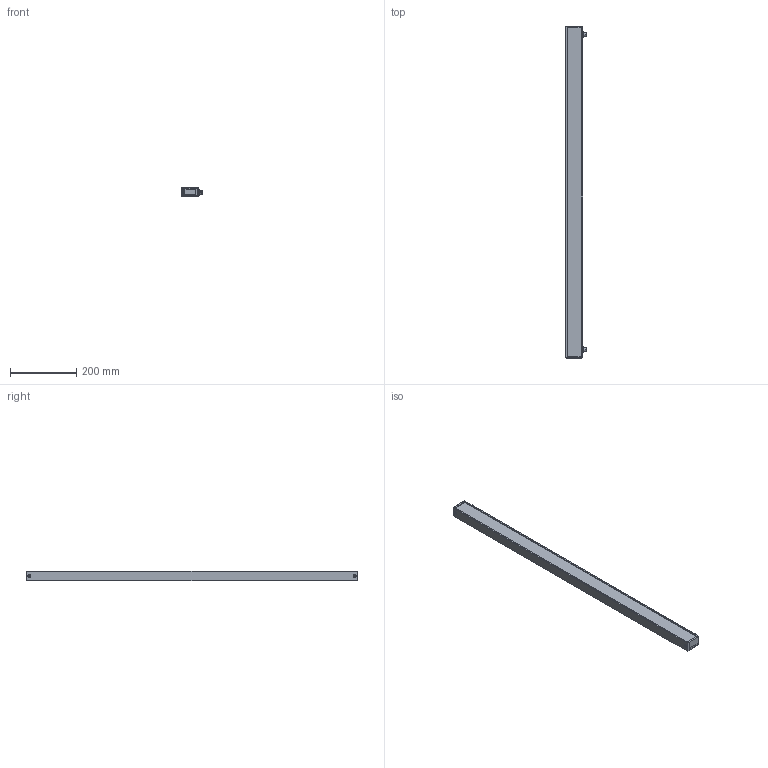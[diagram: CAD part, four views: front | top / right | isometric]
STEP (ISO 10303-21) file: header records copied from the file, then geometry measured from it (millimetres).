
FILE_DESCRIPTION(/* description */ (''),/* implementation_level */ '2;1');
FILE_NAME(/* name */ 'C:/Users/User/Desktop/USER v2.step',/* time_stamp */ '2020-03-16T12:57:20+01:00',/* author */ (''),/* organization */ (''),/* preprocessor_version */ 'ST-DEVELOPER v18',/* originating_system */ 'Autodesk Translation Framework v8.12.0.6',/* authorisation */ '');
FILE_SCHEMA (('AUTOMOTIVE_DESIGN { 1 0 10303 214 3 1 1 }'));
Products named in the file (1): USER
Bounding box: 60.7 x 1000 x 30 mm (x, y, z)
Volume: 538681.2 mm3; surface area: 319757 mm2
Topology: 1 solids, 9 shells, 1881 faces, 4718 edges, 3010 vertices
Faces by surface type: plane 1068, cone 399, cylinder 284, torus 80, sphere 50
Full cylindrical faces by diameter (mm): 1 x2, 1.3 x14, 2 x16, 2.05 x12, 2.2 x8, 2.5 x24, 2.529 x6, 3 x30, 3.3 x8, 3.332 x2, 4 x16, 4.2 x4, 5.6 x30, 8.4 x6, 8.6 x2, 9.7 x2, 11.61 x2, 11.9 x2, 12.2 x2, 12.69 x2, 13.8 x2, 14 x2
Entity records: 63993 total; most frequent: CARTESIAN_POINT 18299, DIRECTION 10294, ORIENTED_EDGE 9300, EDGE_CURVE 4650, AXIS2_PLACEMENT_3D 4288, VERTEX_POINT 3010, CIRCLE 2254, EDGE_LOOP 2152
